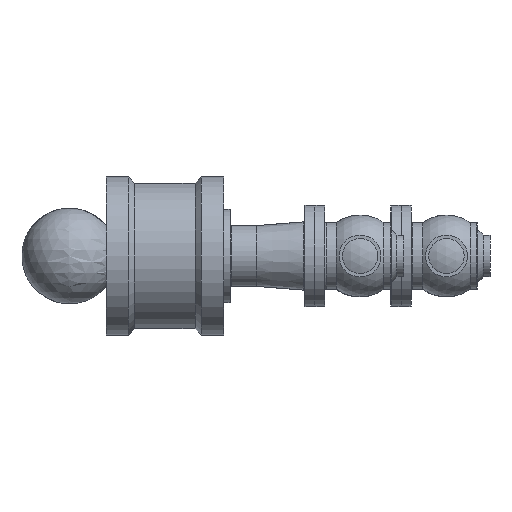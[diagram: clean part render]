
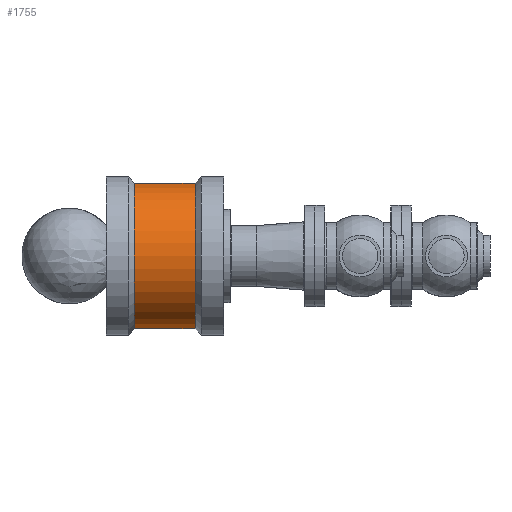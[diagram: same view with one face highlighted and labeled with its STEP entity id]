
A CAD part, left-side view. The second image highlights one B-rep face of the part: STEP entity #1755.
In plain terms, the highlighted cylindrical face has radius 110.5 mm (diameter 221 mm), a full revolution.
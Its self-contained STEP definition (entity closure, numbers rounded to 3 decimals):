
#193=LINE('',#3177,#240);
#240=VECTOR('',#2484,110.5);
#283=CYLINDRICAL_SURFACE('',#2055,110.5);
#365=FACE_OUTER_BOUND('',#472,.T.);
#472=EDGE_LOOP('',(#1325,#1326,#1327,#1328,#1329,#1330));
#621=CIRCLE('',#2053,110.5);
#622=CIRCLE('',#2054,110.5);
#623=CIRCLE('',#2056,110.5);
#624=CIRCLE('',#2057,110.5);
#817=VERTEX_POINT('',#3167);
#818=VERTEX_POINT('',#3168);
#819=VERTEX_POINT('',#3173);
#820=VERTEX_POINT('',#3174);
#1017=EDGE_CURVE('',#817,#818,#621,.T.);
#1018=EDGE_CURVE('',#818,#817,#622,.T.);
#1020=EDGE_CURVE('',#819,#820,#623,.T.);
#1021=EDGE_CURVE('',#820,#819,#624,.T.);
#1022=EDGE_CURVE('',#820,#818,#193,.T.);
#1325=ORIENTED_EDGE('',*,*,#1020,.F.);
#1326=ORIENTED_EDGE('',*,*,#1021,.F.);
#1327=ORIENTED_EDGE('',*,*,#1022,.T.);
#1328=ORIENTED_EDGE('',*,*,#1018,.T.);
#1329=ORIENTED_EDGE('',*,*,#1017,.T.);
#1330=ORIENTED_EDGE('',*,*,#1022,.F.);
#1755=ADVANCED_FACE('',(#365),#283,.T.);
#2053=AXIS2_PLACEMENT_3D('',#3169,#2473,#2474);
#2054=AXIS2_PLACEMENT_3D('',#3170,#2475,#2476);
#2055=AXIS2_PLACEMENT_3D('',#3172,#2478,#2479);
#2056=AXIS2_PLACEMENT_3D('',#3175,#2480,#2481);
#2057=AXIS2_PLACEMENT_3D('',#3176,#2482,#2483);
#2473=DIRECTION('center_axis',(-1.,0.,0.));
#2474=DIRECTION('ref_axis',(0.,0.,1.));
#2475=DIRECTION('center_axis',(-1.,0.,0.));
#2476=DIRECTION('ref_axis',(0.,0.,1.));
#2478=DIRECTION('center_axis',(-1.,0.,0.));
#2479=DIRECTION('ref_axis',(0.,0.,1.));
#2480=DIRECTION('center_axis',(-1.,0.,0.));
#2481=DIRECTION('ref_axis',(0.,0.,1.));
#2482=DIRECTION('center_axis',(-1.,0.,0.));
#2483=DIRECTION('ref_axis',(0.,0.,1.));
#2484=DIRECTION('',(1.,0.,0.));
#3167=CARTESIAN_POINT('',(-46.,0.,110.5));
#3168=CARTESIAN_POINT('',(-46.,0.,-110.5));
#3169=CARTESIAN_POINT('Origin',(-46.,0.,0.));
#3170=CARTESIAN_POINT('Origin',(-46.,0.,0.));
#3172=CARTESIAN_POINT('Origin',(-92.,0.,0.));
#3173=CARTESIAN_POINT('',(-138.,0.,110.5));
#3174=CARTESIAN_POINT('',(-138.,0.,-110.5));
#3175=CARTESIAN_POINT('Origin',(-138.,0.,0.));
#3176=CARTESIAN_POINT('Origin',(-138.,0.,0.));
#3177=CARTESIAN_POINT('',(-92.,0.,-110.5));
